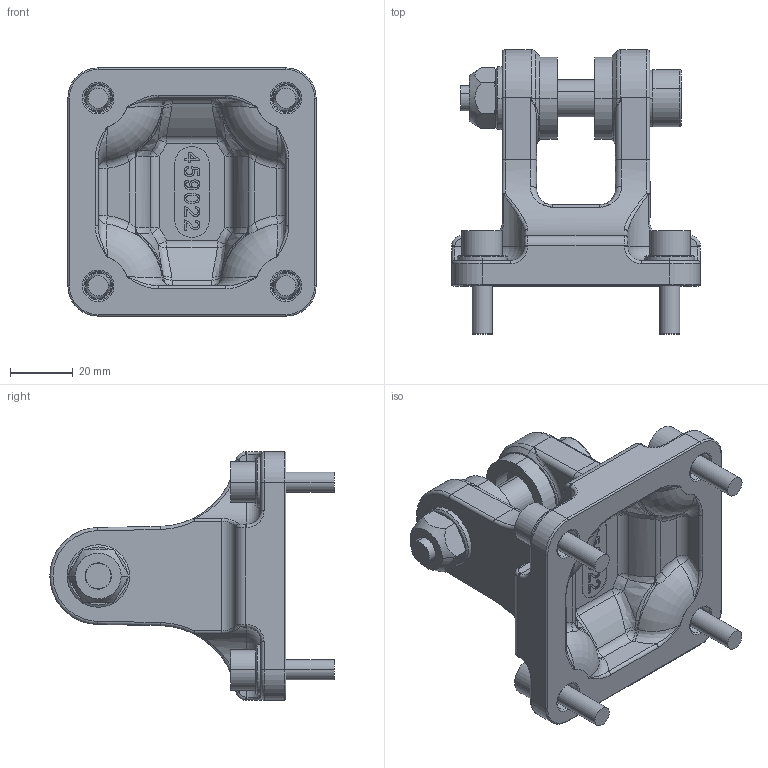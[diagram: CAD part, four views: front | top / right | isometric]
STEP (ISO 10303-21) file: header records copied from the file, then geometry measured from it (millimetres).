
FILE_DESCRIPTION (( 'STEP AP214' ), '1' );
FILE_NAME ('10574345.STEP', '2022-02-23T10:57:39', ( '' ), ( '' ), 'SwSTEP 2.0', 'SolidWorks 2019', '' );
FILE_SCHEMA (( 'AUTOMOTIVE_DESIGN' ));
Length unit declared in the file: millimetre
Products named in the file (1): 10574345
Bounding box: 79.4 x 90.9 x 79.4 mm (x, y, z)
Volume: 126176.1 mm3; surface area: 42481.2 mm2
Topology: 16 solids, 16 shells, 698 faces, 1647 edges, 977 vertices
Faces by surface type: plane 208, cylinder 177, bspline 170, torus 88, cone 31, sphere 24
Entity records: 35657 total; most frequent: CARTESIAN_POINT 12733, ORIENTED_EDGE 3238, DIRECTION 2958, EDGE_CURVE 1619, AXIS2_PLACEMENT_3D 1144, VERTEX_POINT 977, EDGE_LOOP 752, UNCERTAINTY_MEASURE_WITH_UNIT 716
